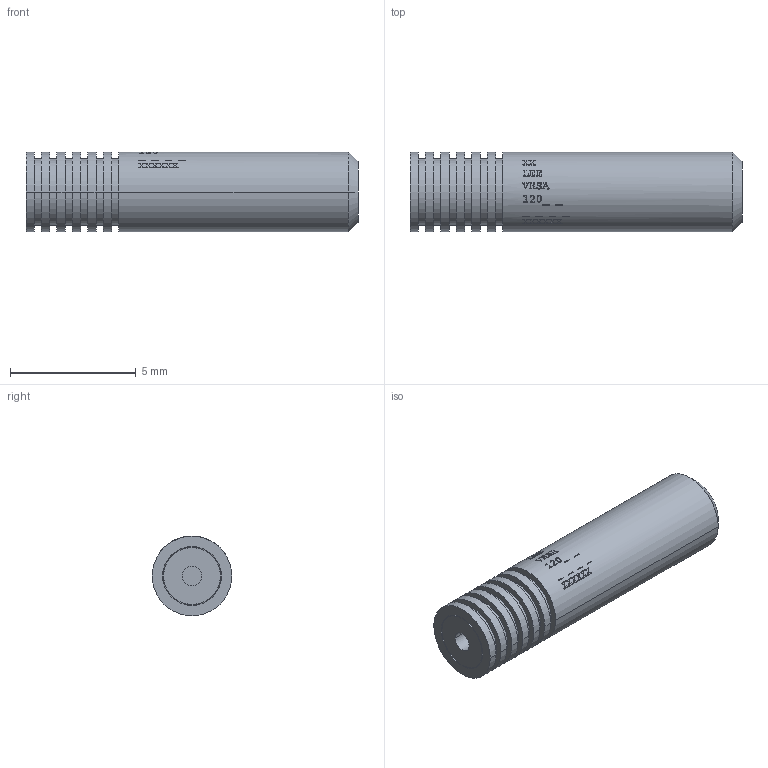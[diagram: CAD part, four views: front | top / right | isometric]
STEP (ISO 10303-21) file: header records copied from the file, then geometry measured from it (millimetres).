
FILE_DESCRIPTION (( 'STEP AP214' ), '1' );
FILE_NAME ('VHSA1210----.STEP', '2021-04-21T16:15:45', ( '' ), ( '' ), 'SwSTEP 2.0', 'SolidWorks 2019', '' );
FILE_SCHEMA (( 'AUTOMOTIVE_DESIGN' ));
Length unit declared in the file: inch
Products named in the file (1): VHSA1210----
Bounding box: 13.21 x 3.17 x 3.17 mm (x, y, z)
Volume: 96.9 mm3; surface area: 185.2 mm2
Topology: 1 solids, 1 shells, 639 faces, 1783 edges, 1188 vertices
Faces by surface type: bspline 356, plane 221, cylinder 58, cone 4
Entity records: 22762 total; most frequent: CARTESIAN_POINT 9628, ORIENTED_EDGE 3566, EDGE_CURVE 1783, DIRECTION 1286, B_SPLINE_CURVE_WITH_KNOTS 1223, VERTEX_POINT 1188, EDGE_LOOP 681, FACE_OUTER_BOUND 639
